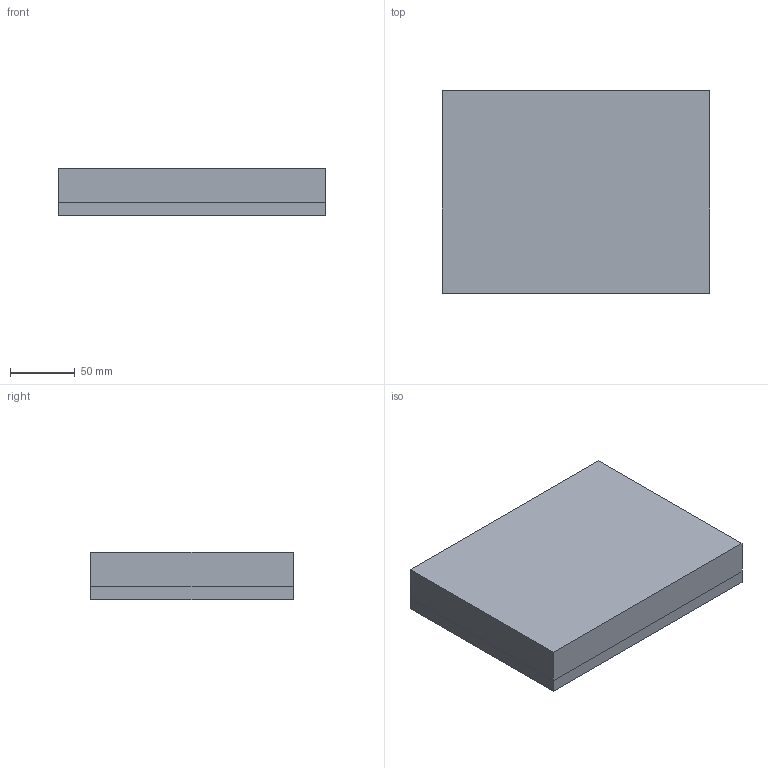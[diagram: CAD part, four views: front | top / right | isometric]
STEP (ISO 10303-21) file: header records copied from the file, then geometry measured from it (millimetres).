
FILE_DESCRIPTION(('CATIA V5 STEP Exchange'),'2;1');
FILE_NAME('C:\_Andres\UNIVERSIDAD\IQS\ASIGNATURAS\DAO\Controles\1920\c2\c2-Coca_Domingo_Sergi.stp','2020-02-10T15:37:57+00:00',('none'),('none'),'CATIA Version 5 Release 19 SP 3 (IN-10)','CATIA V5 STEP AP203','none');
FILE_SCHEMA(('CONFIG_CONTROL_DESIGN'));
Length unit declared in the file: millimetre
Products named in the file (1): c2-Coca_Domingo_Sergi
Bounding box: 207 x 157 x 37 mm (x, y, z)
Surface area: 227285.7 mm2
Topology: 3 solids, 3 shells, 103 faces, 232 edges, 128 vertices
Faces by surface type: cylinder 40, plane 27, bspline 24, sphere 12
Entity records: 3348 total; most frequent: CARTESIAN_POINT 1636, ORIENTED_EDGE 440, DIRECTION 224, EDGE_CURVE 164, EDGE_LOOP 110, ADVANCED_FACE 103, FACE_OUTER_BOUND 103, AXIS2_PLACEMENT_3D 96
